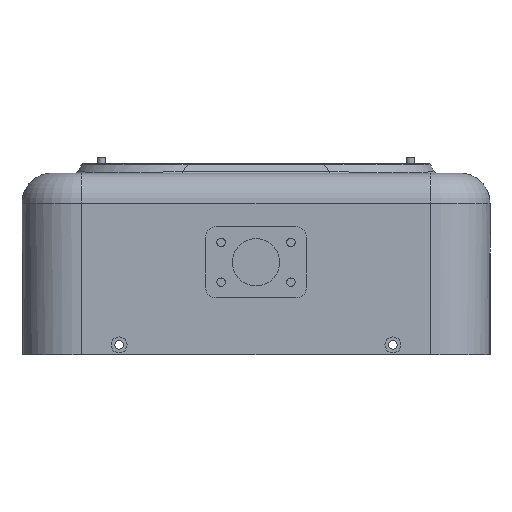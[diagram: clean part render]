
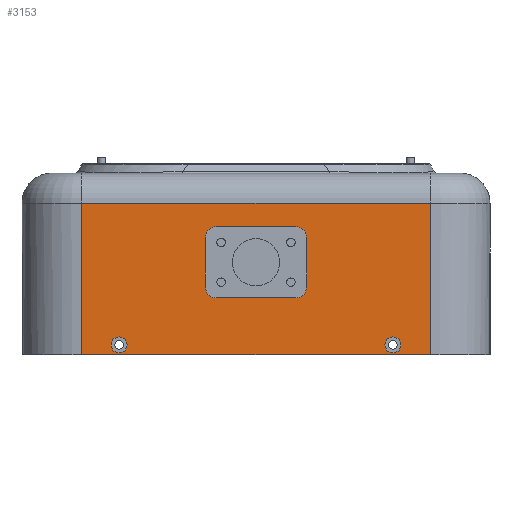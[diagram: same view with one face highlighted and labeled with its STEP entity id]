
A CAD part, front view. The second image highlights one B-rep face of the part: STEP entity #3153.
In plain terms, the highlighted planar face has unit normal (0, -1, 0).
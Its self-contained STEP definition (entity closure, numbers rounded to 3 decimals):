
#249 = VERTEX_POINT('',#250);
#250 = CARTESIAN_POINT('',(-70.,-110.,0.));
#257 = EDGE_CURVE('',#249,#258,#260,.T.);
#258 = VERTEX_POINT('',#259);
#259 = CARTESIAN_POINT('',(-70.,-110.,61.));
#260 = LINE('',#261,#262);
#261 = CARTESIAN_POINT('',(-70.,-110.,0.));
#262 = VECTOR('',#263,1.);
#263 = DIRECTION('',(0.,0.,1.));
#1270 = VERTEX_POINT('',#1271);
#1271 = CARTESIAN_POINT('',(70.,-110.,61.));
#1280 = EDGE_CURVE('',#1270,#258,#1281,.T.);
#1281 = LINE('',#1282,#1283);
#1282 = CARTESIAN_POINT('',(70.,-110.,61.));
#1283 = VECTOR('',#1284,1.);
#1284 = DIRECTION('',(-1.,0.,0.));
#1916 = VERTEX_POINT('',#1917);
#1917 = CARTESIAN_POINT('',(70.,-110.,0.));
#1924 = EDGE_CURVE('',#1916,#1270,#1925,.T.);
#1925 = LINE('',#1926,#1927);
#1926 = CARTESIAN_POINT('',(70.,-110.,0.));
#1927 = VECTOR('',#1928,1.);
#1928 = DIRECTION('',(0.,0.,1.));
#3082 = EDGE_CURVE('',#249,#1916,#3083,.T.);
#3083 = LINE('',#3084,#3085);
#3084 = CARTESIAN_POINT('',(-94.,-110.,0.));
#3085 = VECTOR('',#3086,1.);
#3086 = DIRECTION('',(1.,0.,0.));
#3153 = ADVANCED_FACE('',(#3154,#3160,#3230,#3241),#3252,.F.);
#3154 = FACE_BOUND('',#3155,.T.);
#3155 = EDGE_LOOP('',(#3156,#3157,#3158,#3159));
#3156 = ORIENTED_EDGE('',*,*,#257,.F.);
#3157 = ORIENTED_EDGE('',*,*,#3082,.T.);
#3158 = ORIENTED_EDGE('',*,*,#1924,.T.);
#3159 = ORIENTED_EDGE('',*,*,#1280,.T.);
#3160 = FACE_BOUND('',#3161,.F.);
#3161 = EDGE_LOOP('',(#3162,#3172,#3181,#3189,#3198,#3206,#3215,#3223));
#3162 = ORIENTED_EDGE('',*,*,#3163,.T.);
#3163 = EDGE_CURVE('',#3164,#3166,#3168,.T.);
#3164 = VERTEX_POINT('',#3165);
#3165 = CARTESIAN_POINT('',(-20.3,-110.,47.2));
#3166 = VERTEX_POINT('',#3167);
#3167 = CARTESIAN_POINT('',(-20.3,-110.,27.2));
#3168 = LINE('',#3169,#3170);
#3169 = CARTESIAN_POINT('',(-20.3,-110.,11.45));
#3170 = VECTOR('',#3171,1.);
#3171 = DIRECTION('',(0.,0.,-1.));
#3172 = ORIENTED_EDGE('',*,*,#3173,.T.);
#3173 = EDGE_CURVE('',#3166,#3174,#3176,.T.);
#3174 = VERTEX_POINT('',#3175);
#3175 = CARTESIAN_POINT('',(-16.,-110.,22.9));
#3176 = CIRCLE('',#3177,4.3);
#3177 = AXIS2_PLACEMENT_3D('',#3178,#3179,#3180);
#3178 = CARTESIAN_POINT('',(-16.,-110.,27.2));
#3179 = DIRECTION('',(0.,-1.,0.));
#3180 = DIRECTION('',(-1.,0.,0.));
#3181 = ORIENTED_EDGE('',*,*,#3182,.T.);
#3182 = EDGE_CURVE('',#3174,#3183,#3185,.T.);
#3183 = VERTEX_POINT('',#3184);
#3184 = CARTESIAN_POINT('',(16.,-110.,22.9));
#3185 = LINE('',#3186,#3187);
#3186 = CARTESIAN_POINT('',(-57.15,-110.,22.9));
#3187 = VECTOR('',#3188,1.);
#3188 = DIRECTION('',(1.,0.,0.));
#3189 = ORIENTED_EDGE('',*,*,#3190,.T.);
#3190 = EDGE_CURVE('',#3183,#3191,#3193,.T.);
#3191 = VERTEX_POINT('',#3192);
#3192 = CARTESIAN_POINT('',(20.3,-110.,27.2));
#3193 = CIRCLE('',#3194,4.3);
#3194 = AXIS2_PLACEMENT_3D('',#3195,#3196,#3197);
#3195 = CARTESIAN_POINT('',(16.,-110.,27.2));
#3196 = DIRECTION('',(0.,-1.,0.));
#3197 = DIRECTION('',(1.,0.,0.));
#3198 = ORIENTED_EDGE('',*,*,#3199,.F.);
#3199 = EDGE_CURVE('',#3200,#3191,#3202,.T.);
#3200 = VERTEX_POINT('',#3201);
#3201 = CARTESIAN_POINT('',(20.3,-110.,47.2));
#3202 = LINE('',#3203,#3204);
#3203 = CARTESIAN_POINT('',(20.3,-110.,11.45));
#3204 = VECTOR('',#3205,1.);
#3205 = DIRECTION('',(0.,0.,-1.));
#3206 = ORIENTED_EDGE('',*,*,#3207,.T.);
#3207 = EDGE_CURVE('',#3200,#3208,#3210,.T.);
#3208 = VERTEX_POINT('',#3209);
#3209 = CARTESIAN_POINT('',(16.,-110.,51.5));
#3210 = CIRCLE('',#3211,4.3);
#3211 = AXIS2_PLACEMENT_3D('',#3212,#3213,#3214);
#3212 = CARTESIAN_POINT('',(16.,-110.,47.2));
#3213 = DIRECTION('',(0.,-1.,0.));
#3214 = DIRECTION('',(1.,0.,0.));
#3215 = ORIENTED_EDGE('',*,*,#3216,.F.);
#3216 = EDGE_CURVE('',#3217,#3208,#3219,.T.);
#3217 = VERTEX_POINT('',#3218);
#3218 = CARTESIAN_POINT('',(-16.,-110.,51.5));
#3219 = LINE('',#3220,#3221);
#3220 = CARTESIAN_POINT('',(-57.15,-110.,51.5));
#3221 = VECTOR('',#3222,1.);
#3222 = DIRECTION('',(1.,0.,0.));
#3223 = ORIENTED_EDGE('',*,*,#3224,.T.);
#3224 = EDGE_CURVE('',#3217,#3164,#3225,.T.);
#3225 = CIRCLE('',#3226,4.3);
#3226 = AXIS2_PLACEMENT_3D('',#3227,#3228,#3229);
#3227 = CARTESIAN_POINT('',(-16.,-110.,47.2));
#3228 = DIRECTION('',(0.,-1.,0.));
#3229 = DIRECTION('',(-1.,0.,0.));
#3230 = FACE_BOUND('',#3231,.F.);
#3231 = EDGE_LOOP('',(#3232));
#3232 = ORIENTED_EDGE('',*,*,#3233,.F.);
#3233 = EDGE_CURVE('',#3234,#3234,#3236,.T.);
#3234 = VERTEX_POINT('',#3235);
#3235 = CARTESIAN_POINT('',(-55.,-110.,7.2));
#3236 = CIRCLE('',#3237,3.2);
#3237 = AXIS2_PLACEMENT_3D('',#3238,#3239,#3240);
#3238 = CARTESIAN_POINT('',(-55.,-110.,4.));
#3239 = DIRECTION('',(0.,1.,0.));
#3240 = DIRECTION('',(0.,0.,1.));
#3241 = FACE_BOUND('',#3242,.F.);
#3242 = EDGE_LOOP('',(#3243));
#3243 = ORIENTED_EDGE('',*,*,#3244,.F.);
#3244 = EDGE_CURVE('',#3245,#3245,#3247,.T.);
#3245 = VERTEX_POINT('',#3246);
#3246 = CARTESIAN_POINT('',(55.,-110.,7.2));
#3247 = CIRCLE('',#3248,3.2);
#3248 = AXIS2_PLACEMENT_3D('',#3249,#3250,#3251);
#3249 = CARTESIAN_POINT('',(55.,-110.,4.));
#3250 = DIRECTION('',(0.,1.,0.));
#3251 = DIRECTION('',(0.,0.,1.));
#3252 = PLANE('',#3253);
#3253 = AXIS2_PLACEMENT_3D('',#3254,#3255,#3256);
#3254 = CARTESIAN_POINT('',(-94.,-110.,0.));
#3255 = DIRECTION('',(0.,1.,0.));
#3256 = DIRECTION('',(0.,0.,1.));
